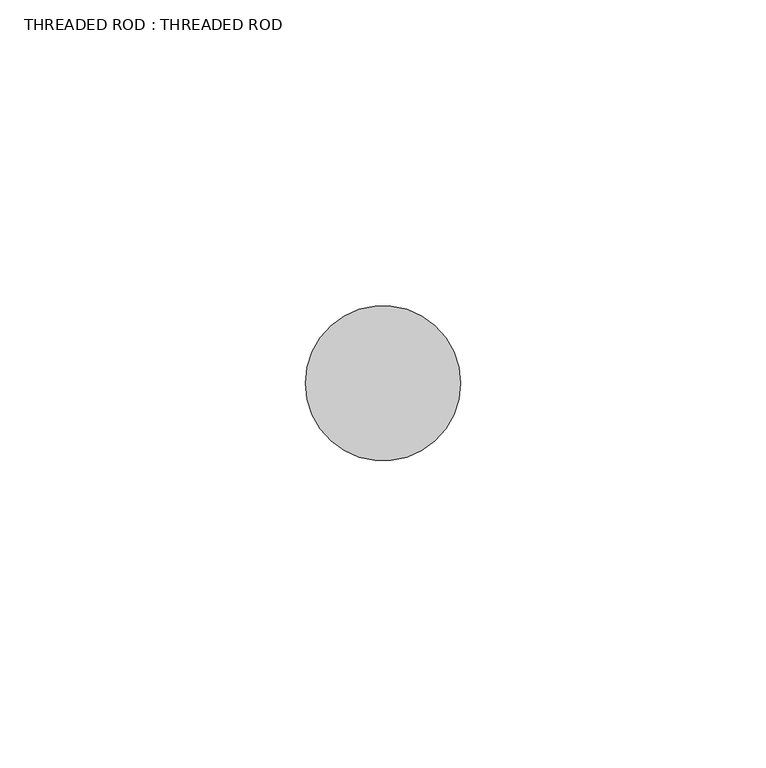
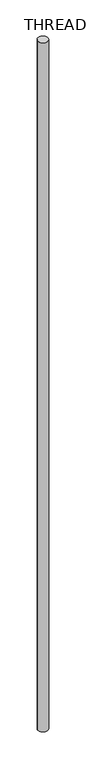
"""IFC4 building model written with IfcOpenShell, lengths in millimetres: proxy geometry, THREADED ROD : THREADED ROD."""

from ifc_helpers import new_model, si_unit, point, origin, origin_with_axes, origin_2d, place, context, project, spatial, circle_curve, trimmed, segment, composite_curve, outline, extrude, source, transform, mapped, element, save


def threaded_rod_threaded_rod_82d1eb91(model_context):
    return source(origin(), model_context, "Body", "SweptSolid", [
        extrude(outline(composite_curve([segment(trimmed(circle_curve(origin_2d(), 12.7), [point((-12.7, 0.0))], [point((12.7, 0.0))], False, "CARTESIAN"), True, "CONTINUOUS"), segment(trimmed(circle_curve(origin_2d(), 12.7), [point((12.7, 0.0))], [point((-12.7, 0.0))], False, "CARTESIAN"), True, "CONTINUOUS")], self_intersect=False)), origin_with_axes(), (0.0, 0.0, 1.0), 1828.8),
    ])


if __name__ == "__main__":
    model = new_model("IFC4")
    model_context = context("Model", 3, world=origin())
    ifc_project = project(units=[si_unit("LENGTHUNIT", "METRE", prefix="MILLI")], contexts=[model_context])
    site = spatial("IfcSite", under=ifc_project)
    building = spatial("IfcBuilding", under=site)
    placement = place(None, origin())
    threaded_rod_threaded_rod_shape = threaded_rod_threaded_rod_82d1eb91(model_context)
    element("IfcBuildingElementProxy", 1, Name="THREADED ROD : THREADED ROD", ObjectType="THREADED ROD : THREADED ROD", at=placement, inside=building, context=model_context, shape_type="MappedRepresentation", body=[
        mapped(threaded_rod_threaded_rod_shape, transform((0.0, 0.0, 0.0), x_axis=(1.0, 0.0, 0.0), y_axis=(0.0, 1.0, 0.0), z_axis=(0.0, 0.0, 1.0))),
    ])
    save(model, "model.ifc")
